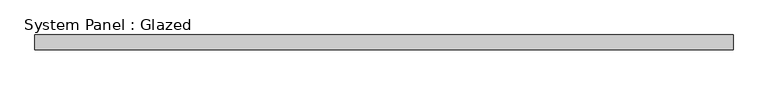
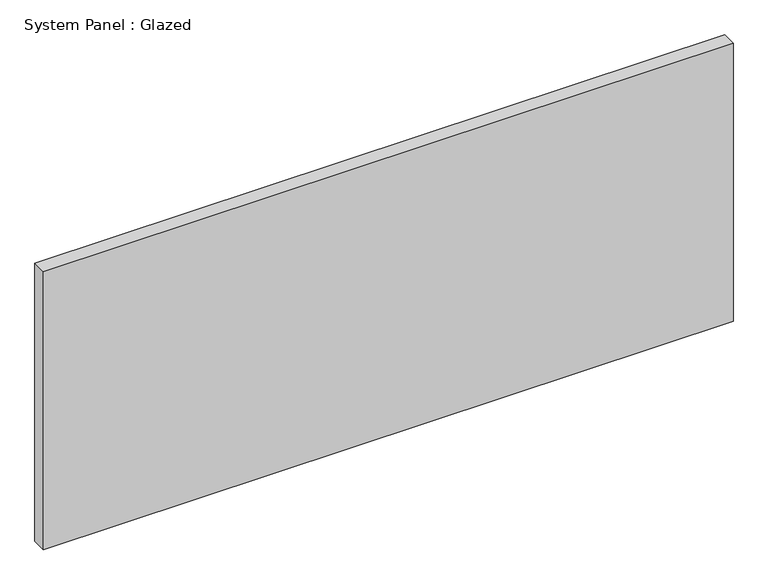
"""IFC4 building model written with IfcOpenShell, lengths in millimetres: plate geometry, System Panel : Glazed."""

from ifc_helpers import new_model, si_unit, origin, origin_with_axes, place, context, project, spatial, polyline, outline, extrude, source, transform, mapped, element, save


def system_panel_glazed_5eb8656d(model_context):
    return source(origin(), model_context, "Body", "SweptSolid", [
        extrude(outline(polyline([(600.1804533, 19.05), (-600.1804533, 19.05), (-600.1804533, 44.45), (600.1804533, 44.45), (600.1804533, 19.05)])), origin_with_axes(), (0.0, 0.0, 1.0), 511.3509366),
    ])


if __name__ == "__main__":
    model = new_model("IFC4")
    model_context = context("Model", 3, world=origin())
    ifc_project = project(units=[si_unit("LENGTHUNIT", "METRE", prefix="MILLI")], contexts=[model_context])
    site = spatial("IfcSite", under=ifc_project)
    building = spatial("IfcBuilding", under=site)
    placement = place(None, origin())
    system_panel_glazed_shape = system_panel_glazed_5eb8656d(model_context)
    element("IfcPlate", 1, ObjectType="System Panel : Glazed", at=placement, inside=building, context=model_context, shape_type="MappedRepresentation", body=[
        mapped(system_panel_glazed_shape, transform((0.0, 0.0, 0.0), x_axis=(1.0, 0.0, 0.0), y_axis=(0.0, 1.0, 0.0), z_axis=(0.0, 0.0, 1.0))),
    ])
    save(model, "model.ifc")
